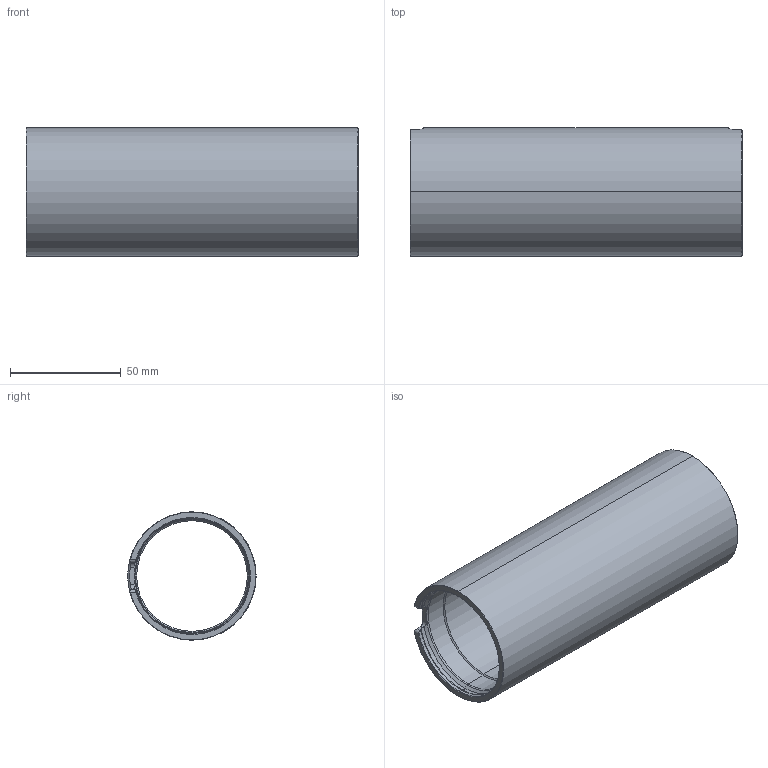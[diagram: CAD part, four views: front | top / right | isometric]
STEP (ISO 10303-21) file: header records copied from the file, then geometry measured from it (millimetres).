
FILE_DESCRIPTION (( 'STEP AP214' ), '1' );
FILE_NAME ('WTE2-LOCKING-TUBE-R1.STEP', '2019-11-12T19:12:22', ( '' ), ( '' ), 'SwSTEP 2.0', 'SolidWorks 2020', '' );
FILE_SCHEMA (( 'AUTOMOTIVE_DESIGN' ));
Length unit declared in the file: millimetre
Products named in the file (1): WTE2-LOCKING-TUBE-R1
Bounding box: 150 x 57.97 x 58 mm (x, y, z)
Volume: 96734.2 mm3; surface area: 52032.2 mm2
Topology: 1 solids, 1 shells, 76 faces, 184 edges, 108 vertices
Faces by surface type: cone 22, cylinder 22, torus 16, plane 12, bspline 4
Entity records: 3061 total; most frequent: CARTESIAN_POINT 1320, ORIENTED_EDGE 368, DIRECTION 354, EDGE_CURVE 184, AXIS2_PLACEMENT_3D 149, VERTEX_POINT 108, EDGE_LOOP 76, ADVANCED_FACE 76
